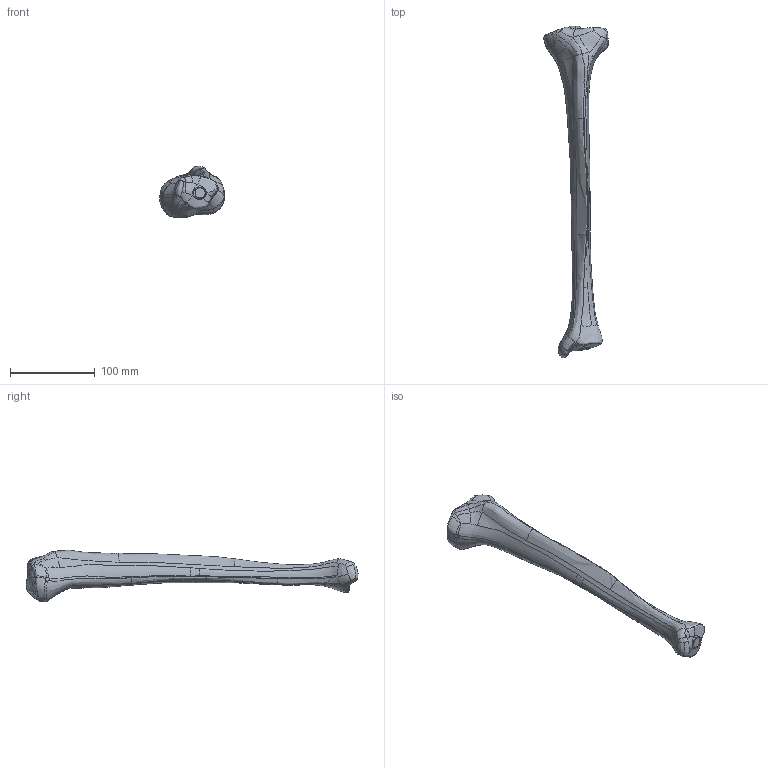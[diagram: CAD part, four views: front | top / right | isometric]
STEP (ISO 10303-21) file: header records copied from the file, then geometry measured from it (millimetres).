
FILE_DESCRIPTION (( 'STEP AP203' ), '1' );
FILE_NAME ('3401.STEP', '2025-06-10T14:58:11', ( '' ), ( '' ), 'SwSTEP 2.0', 'SolidWorks 2024', '' );
FILE_SCHEMA (( 'CONFIG_CONTROL_DESIGN' ));
Products named in the file (1): 3401
Bounding box: 75.76 x 390.96 x 60.44 mm (x, y, z)
Volume: 318811.9 mm3; surface area: 44227.1 mm2
Topology: 1 solids, 1 shells, 324 faces, 876 edges, 569 vertices
Faces by surface type: bspline 318, plane 6
Entity records: 41616 total; most frequent: CARTESIAN_POINT 36117, ORIENTED_EDGE 1752, EDGE_CURVE 876, B_SPLINE_CURVE_WITH_KNOTS 874, VERTEX_POINT 569, EDGE_LOOP 339, ADVANCED_FACE 324, FACE_OUTER_BOUND 324
